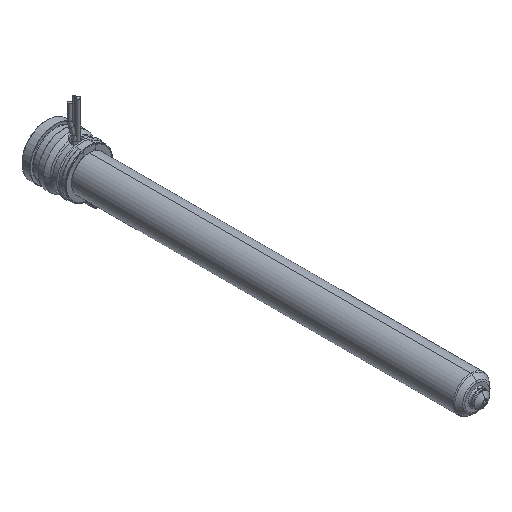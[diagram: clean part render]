
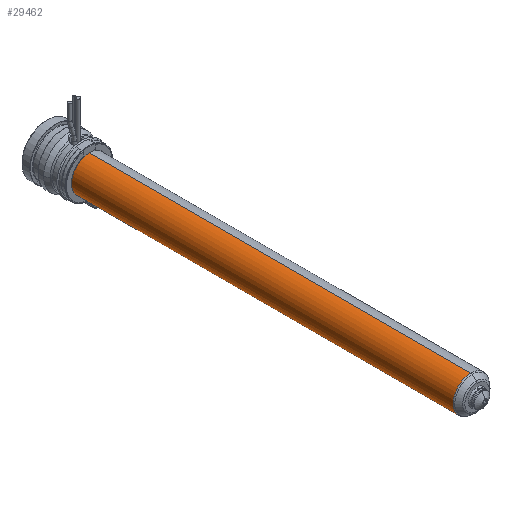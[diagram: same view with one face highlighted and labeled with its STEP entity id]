
A CAD part, isometric view. The second image highlights one B-rep face of the part: STEP entity #29462.
In plain terms, the highlighted cylindrical face has radius 9 mm (diameter 18 mm), a partial arc.
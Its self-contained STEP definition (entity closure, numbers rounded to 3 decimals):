
#28868=CARTESIAN_POINT('',(0.,-215.836,0.));
#28869=DIRECTION('',(0.,-1.,0.));
#28870=DIRECTION('',(0.,0.,1.));
#28871=AXIS2_PLACEMENT_3D('',#28868,#28869,#28870);
#28873=CARTESIAN_POINT('',(0.,-22.,0.));
#28874=DIRECTION('',(0.,1.,0.));
#28875=DIRECTION('',(0.,0.,-1.));
#28876=AXIS2_PLACEMENT_3D('',#28873,#28874,#28875);
#28878=DIRECTION('',(0.,1.,0.));
#28879=VECTOR('',#28878,193.836);
#28880=CARTESIAN_POINT('',(0.,-215.836,9.));
#28881=LINE('',#28880,#28879);
#28887=DIRECTION('',(0.,1.,0.));
#28888=VECTOR('',#28887,193.836);
#28889=CARTESIAN_POINT('',(0.,-215.836,-9.));
#28890=LINE('',#28889,#28888);
#29005=CARTESIAN_POINT('',(0.,-215.836,9.));
#29006=CARTESIAN_POINT('',(0.,-22.,9.));
#29007=VERTEX_POINT('',#29005);
#29008=VERTEX_POINT('',#29006);
#29009=CARTESIAN_POINT('',(0.,-215.836,-9.));
#29010=CARTESIAN_POINT('',(0.,-22.,-9.));
#29011=VERTEX_POINT('',#29009);
#29012=VERTEX_POINT('',#29010);
#29448=CARTESIAN_POINT('',(0.,-7.7,0.));
#29449=DIRECTION('',(0.,-1.,0.));
#29450=DIRECTION('',(0.,0.,1.));
#29451=AXIS2_PLACEMENT_3D('',#29448,#29449,#29450);
#29452=CYLINDRICAL_SURFACE('',#29451,9.);
#29454=ORIENTED_EDGE('',*,*,#29453,.F.);
#29455=ORIENTED_EDGE('',*,*,#29436,.T.);
#29457=ORIENTED_EDGE('',*,*,#29456,.T.);
#29459=ORIENTED_EDGE('',*,*,#29458,.T.);
#29460=EDGE_LOOP('',(#29454,#29455,#29457,#29459));
#29461=FACE_OUTER_BOUND('',#29460,.F.);
#29462=ADVANCED_FACE('',(#29461),#29452,.T.);
#28872=CIRCLE('',#28871,9.);
#28877=CIRCLE('',#28876,9.);
#29436=EDGE_CURVE('',#29007,#29011,#28872,.T.);
#29453=EDGE_CURVE('',#29007,#29008,#28881,.T.);
#29456=EDGE_CURVE('',#29011,#29012,#28890,.T.);
#29458=EDGE_CURVE('',#29012,#29008,#28877,.T.);
